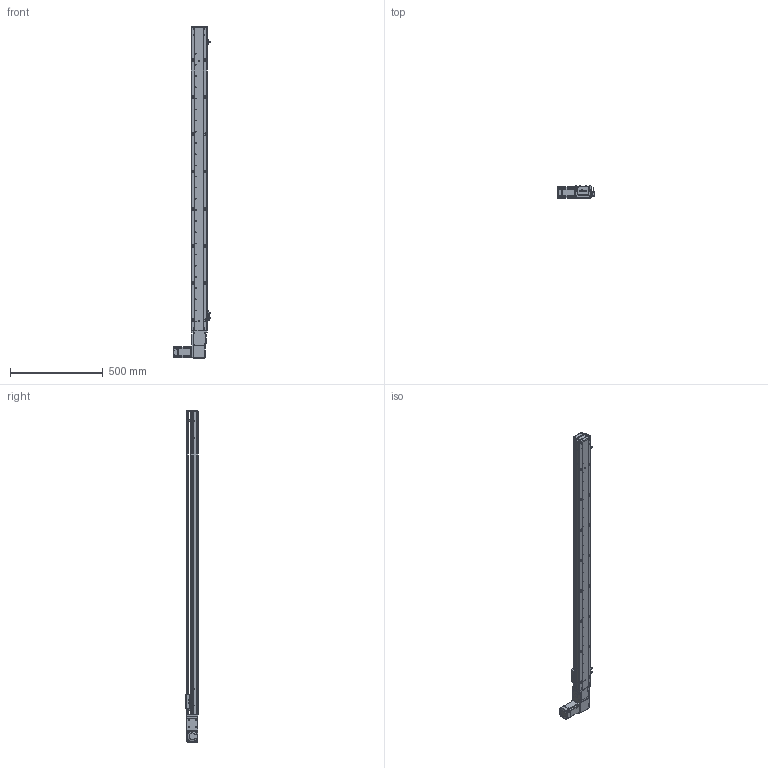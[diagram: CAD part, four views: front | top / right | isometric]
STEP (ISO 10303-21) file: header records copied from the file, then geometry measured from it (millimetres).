
FILE_DESCRIPTION (( 'STEP AP203' ), '1' );
FILE_NAME ('RY80-T-300-LK.SLDASM_1450.step', '2021-03-01T01:59:35', ( '盈信电脑' ), ( '东莞市道滘镇水果街19号' ), 'SwSTEP 2.0', 'SolidWorks 2012', '' );
FILE_SCHEMA (( 'CONFIG_CONTROL_DESIGN' ));
Products named in the file (19): RY80-T-300-LK.SLDASM_1450; RY80-T萇儂假蚾啣; RY80-T-M4蹟翐; RY80-T肮祭謫俋欶; RY80-T翋肮祭謫裔啣; 侂狟200W萇儂; 1; 滅袉蝶18-10; RY80-T粣創揤踡輸; RY80-T肮祭湍揤輸2; RY80-T肮祭湍揤輸1; RY80俋离覜茼え; RY80-T-翋肮祭謫釱; 672嫖萇羲壽假蚾釱; 覜茼ん672; RY80-T綴裔啣; RY80-T肮祭謫臏賑輸; RY80-T-300-LK倰第菁釱_1450; RY80-T-300-LK倰第奻裔啣_1450
Assembly tree (24 placements, depth 3):
  RY80-T-300-LK.SLDASM_1450
    RY80-T-300-LK倰第菁釱_1450
    RY80-T肮祭謫臏賑輸
    RY80-T-300-LK倰第奻裔啣_1450
    RY80-T綴裔啣
    672嫖萇羲壽假蚾釱  x2
    覜茼ん672  x3
    RY80俋离覜茼え
    RY80-T-翋肮祭謫釱
    RY80-T肮祭湍揤輸1
    RY80-T肮祭湍揤輸2
    RY80-T粣創揤踡輸
    RY80-T翋肮祭謫裔啣  x2
    滅袉蝶18-10  x2
    侂狟200W萇儂
      1
    RY80-T肮祭謫俋欶
    RY80-T萇儂假蚾啣
    RY80-T-M4蹟翐  x2
Bounding box: 198.7 x 65 x 1785 mm (x, y, z)
Volume: 2763189.5 mm3; surface area: 1169242.4 mm2
Topology: 23 solids, 23 shells, 2508 faces, 6936 edges, 4507 vertices
Faces by surface type: plane 1325, cylinder 977, cone 150, bspline 56
Entity records: 79359 total; most frequent: CARTESIAN_POINT 19507, ORIENTED_EDGE 12316, DIRECTION 11542, EDGE_CURVE 6158, VERTEX_POINT 4048, AXIS2_PLACEMENT_3D 3899, LINE 3744, VECTOR 3744
